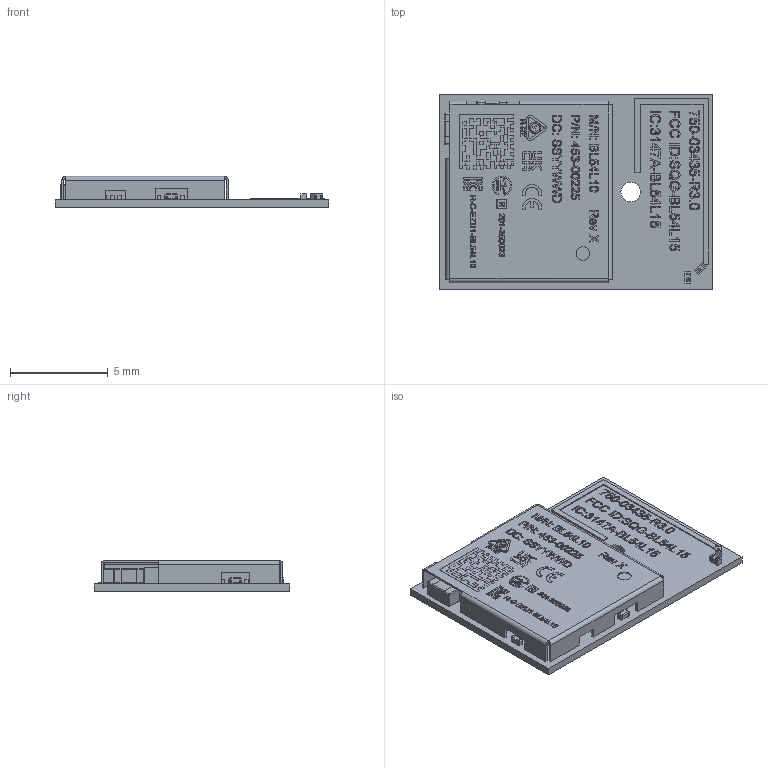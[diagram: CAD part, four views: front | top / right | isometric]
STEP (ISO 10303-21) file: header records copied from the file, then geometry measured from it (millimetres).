
FILE_DESCRIPTION (( 'STEP AP214' ), '1' );
FILE_NAME ('453-00225.STEP', '2026-05-25T09:09:18', ( '' ), ( '' ), 'SwSTEP 2.0', 'SolidWorks 2025', '' );
FILE_SCHEMA (( 'AUTOMOTIVE_DESIGN' ));
Length unit declared in the file: millimetre
Products named in the file (4): 940-00080_laser; 110-00001_453-00225; 750-03435-11122161_940-00341, PCB Trace Antenna; 453-00225
Assembly tree (3 placements, depth 3):
  453-00225
    940-00080_laser
      750-03435-11122161_940-00341, PCB Trace Antenna
      110-00001_453-00225
Bounding box: 14 x 10 x 1.6 mm (x, y, z)
Volume: 10.2 mm3; surface area: 701.3 mm2
Topology: 1 solids, 559 shells, 5165 faces, 13924 edges, 9552 vertices
Faces by surface type: plane 2708, bspline 1145, cylinder 1112, sphere 184, torus 16
Entity records: 251522 total; most frequent: CARTESIAN_POINT 73739, ORIENTED_EDGE 25900, DIRECTION 21122, EDGE_CURVE 13820, VERTEX_POINT 9552, LINE 8482, VECTOR 8482, AXIS2_PLACEMENT_3D 6320
